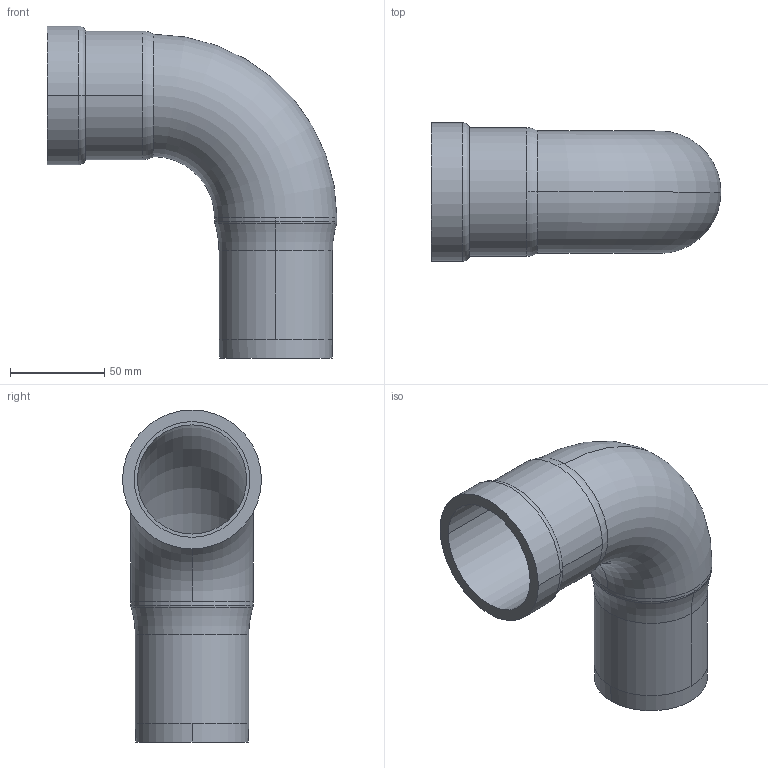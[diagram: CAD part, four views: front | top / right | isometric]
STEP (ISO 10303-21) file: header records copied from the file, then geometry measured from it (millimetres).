
FILE_DESCRIPTION(('Creo Elements/Direct Modeling STEP Export'),'2;1');
FILE_NAME('C9411_2.stp','2020-06-25T13:39:12',(''),(''),'PTC Creo Elements/Direct Modeling STEP processor for AP214 (Solid Model)','PTC Creo Elements/Direct Modeling 19.0C 15-Aug-2015 (C) Parametric Technology GmbH','');
FILE_SCHEMA(('AUTOMOTIVE_DESIGN { 1 0 10303 214 1 1 1 1 }'));
Length unit declared in the file: millimetre
Products named in the file (2): 9411_2
Assembly tree (1 placements, depth 2):
  9411_2
    9411_2
Bounding box: 154.02 x 73.8 x 176.42 mm (x, y, z)
Volume: 170858.9 mm3; surface area: 92129.8 mm2
Topology: 1 solids, 1 shells, 43 faces, 100 edges, 60 vertices
Faces by surface type: torus 16, cylinder 16, cone 8, plane 3
Entity records: 1114 total; most frequent: ORIENTED_EDGE 200, DIRECTION 192, CARTESIAN_POINT 168, EDGE_CURVE 100, AXIS2_PLACEMENT_3D 84, VERTEX_POINT 60, EDGE_LOOP 46, FACE_OUTER_BOUND 43
